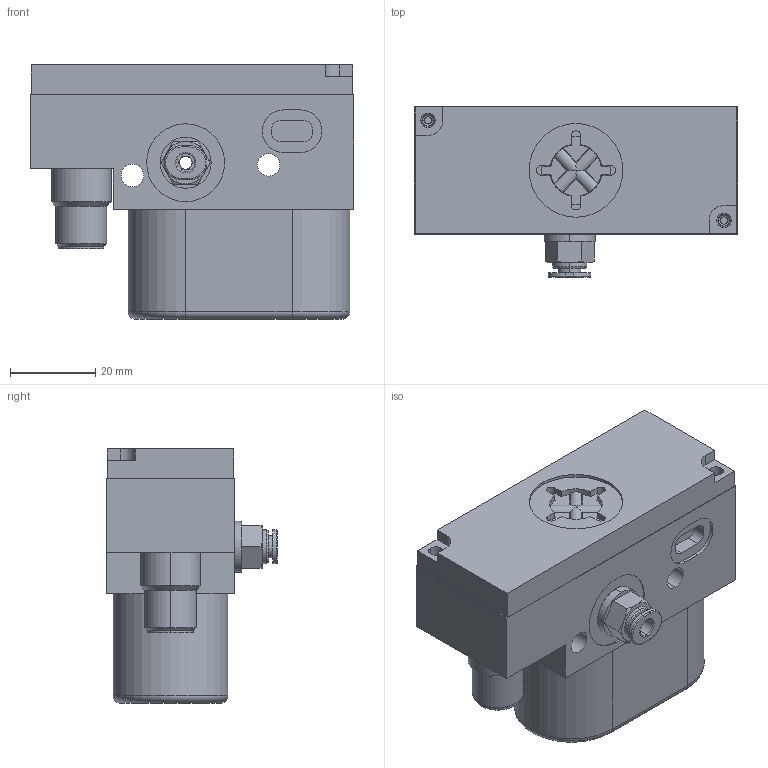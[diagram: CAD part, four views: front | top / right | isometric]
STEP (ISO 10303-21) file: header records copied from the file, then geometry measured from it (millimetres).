
FILE_DESCRIPTION((''),'2;1');
FILE_NAME('R414002402_ASM','2015-03-31T',('mla1hc'),(''),'PRO/ENGINEER BY PARAMETRIC TECHNOLOGY CORPORATION, 2011490','PRO/ENGINEER BY PARAMETRIC TECHNOLOGY CORPORATION, 2011490','');
FILE_SCHEMA(('AUTOMOTIVE_DESIGN_CC2 { 1 2 10303 214 -1 1 5 2 }'));
Length unit declared in the file: millimetre
Products named in the file (7): SG-ED02-HOUSING; SG-ED02-COVER; SG-ED02-FLANGE-HOUSING; SG-ED02-BASE-PLATE; 5610142804; R412005124; R414002402_ASM
Assembly tree (6 placements, depth 2):
  R414002402_ASM
    SG-ED02-HOUSING
    SG-ED02-COVER
    SG-ED02-FLANGE-HOUSING
    SG-ED02-BASE-PLATE
    5610142804
    R412005124
Bounding box: 76 x 40.1 x 59.75 mm (x, y, z)
Volume: 65900.6 mm3; surface area: 32044.7 mm2
Topology: 6 solids, 6 shells, 316 faces, 759 edges, 486 vertices
Faces by surface type: plane 129, cylinder 107, cone 58, torus 22
Entity records: 13743 total; most frequent: CARTESIAN_POINT 1776, DIRECTION 1725, ORIENTED_EDGE 1518, PRESENTATION_STYLE_ASSIGNMENT 920, STYLED_ITEM 765, CURVE_STYLE 759, EDGE_CURVE 759, AXIS2_PLACEMENT_3D 669
